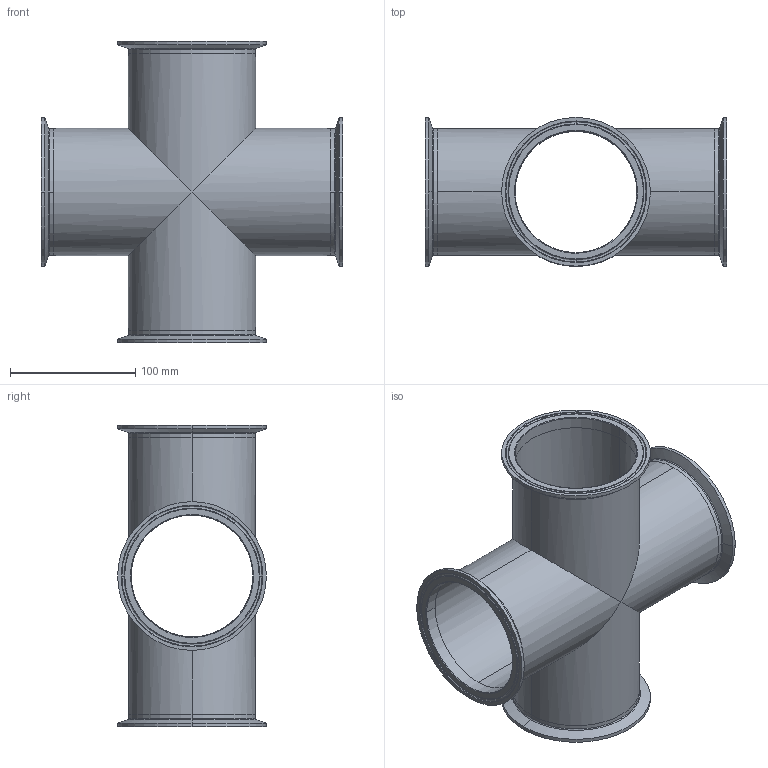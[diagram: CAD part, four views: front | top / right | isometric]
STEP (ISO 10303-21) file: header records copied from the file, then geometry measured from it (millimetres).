
FILE_DESCRIPTION (( 'STEP AP214' ), '1' );
FILE_NAME ('TEG96L4.0-...STEP', '2016-05-22T05:43:37', ( 'eran' ), ( '' ), 'SwSTEP 2.0', 'SolidWorks 2016', '' );
FILE_SCHEMA (( 'AUTOMOTIVE_DESIGN' ));
Length unit declared in the file: millimetre
Products named in the file (1): TEG96L4.0-..
Bounding box: 241.3 x 118.92 x 241.3 mm (x, y, z)
Volume: 285322.7 mm3; surface area: 252081.6 mm2
Topology: 5 solids, 5 shells, 120 faces, 302 edges, 194 vertices
Faces by surface type: cylinder 40, bspline 40, cone 24, plane 16
Entity records: 6338 total; most frequent: CARTESIAN_POINT 3433, DIRECTION 622, ORIENTED_EDGE 604, EDGE_CURVE 302, AXIS2_PLACEMENT_3D 279, CIRCLE 198, VERTEX_POINT 194, EDGE_LOOP 136
